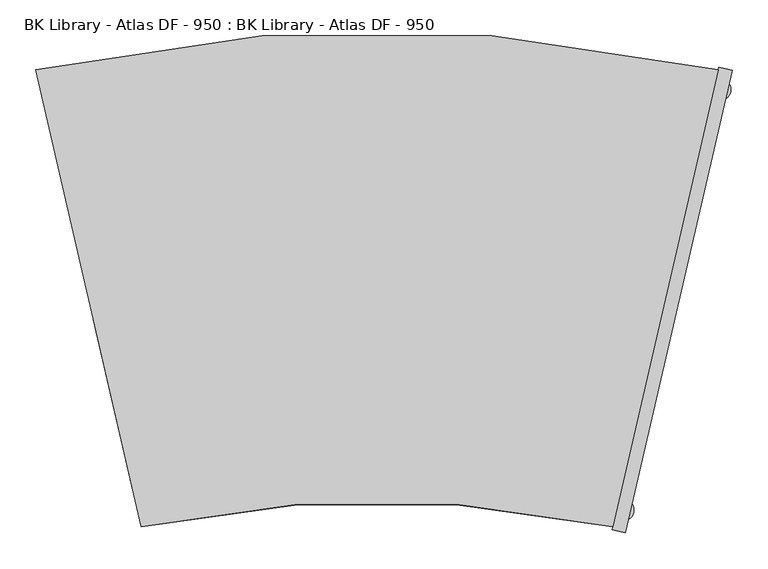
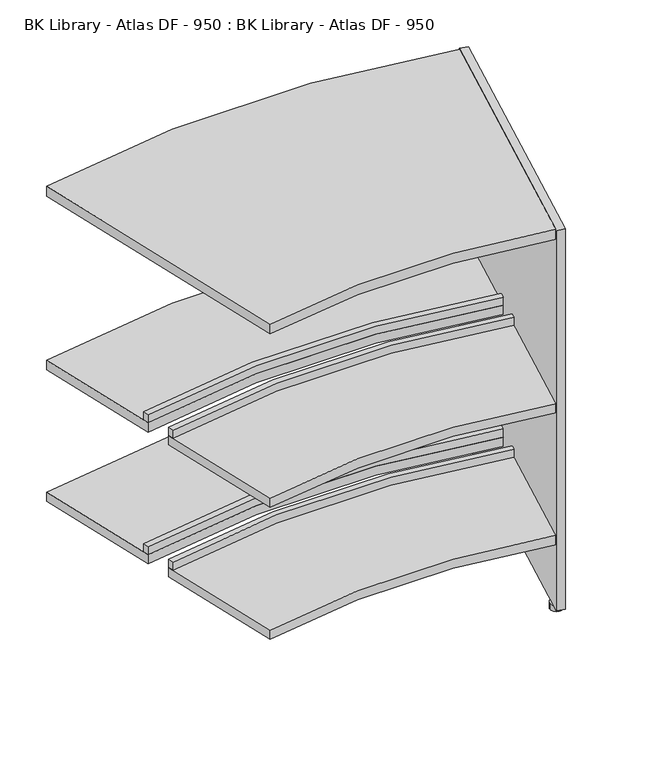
"""IFC4 building model written with IfcOpenShell, lengths in millimetres: furniture geometry, BK Library - Atlas DF - 950 : BK Library - Atlas DF - 950."""

from ifc_helpers import new_model, si_unit, point, frame, frame_2d, origin, origin_with_axes, place, context, project, spatial, polyline, circle_curve, trimmed, segment, composite_curve, outline, extrude, source, transform, mapped, element, save


def bk_library_atlas_df_950_bk_library_atlas_df_950_67e1581c(model_context):
    return source(origin(), model_context, "Body", "SweptSolid", [
        extrude(outline(composite_curve([segment(trimmed(circle_curve(frame_2d((0.0, -1777.8812307)), 2148.52767), [point((-474.1962162, 317.663829))], [point((474.1962162, 317.663829))], False, "CARTESIAN"), True, "CONTINUOUS"), segment(polyline([(474.1962162, 317.663829), (327.6944521, -317.663829)]), True, "CONTINUOUS"), segment(trimmed(circle_curve(frame_2d((0.0, -1840.4430404)), 1557.6392973), [point((327.6944521, -317.663829))], [point((-327.6944521, -317.663829))], True, "CARTESIAN"), True, "CONTINUOUS"), segment(polyline([(-327.6944521, -317.663829), (-474.1962162, 317.663829)]), True, "CONTINUOUS")], self_intersect=False)), frame((0.0, 0.0, 912.0), z_axis=(0.0, 0.0, 1.0), x_axis=(1.0, 0.0, 0.0)), (0.0, 0.0, 1.0), 24.0),
        extrude(outline(composite_curve([segment(trimmed(circle_curve(frame_2d((0.0, -1840.4430404)), 1557.6392973), [point((327.6944521, -317.663829))], [point((-327.6944521, -317.663829))], True, "CARTESIAN"), True, "CONTINUOUS"), segment(polyline([(-327.6944521, -317.663829), (-394.2058088, -29.2269986)]), True, "CONTINUOUS"), segment(trimmed(circle_curve(frame_2d((0.0, -1785.1487517)), 1799.627579), [point((-394.2058088, -29.2269986))], [point((394.2058088, -29.2269986))], False, "CARTESIAN"), True, "CONTINUOUS"), segment(polyline([(394.2058088, -29.2269986), (327.6944521, -317.663829)]), True, "CONTINUOUS")], self_intersect=False)), frame((0.0, 0.0, 171.6999998), z_axis=(0.0, 0.0, 1.0), x_axis=(1.0, 0.0, 0.0)), (0.0, 0.0, 1.0), 22.0),
        extrude(outline(composite_curve([segment(trimmed(circle_curve(frame_2d((0.0, -1777.8812307)), 2148.52767), [point((-474.1962162, 317.663829))], [point((474.1962162, 317.663829))], False, "CARTESIAN"), True, "CONTINUOUS"), segment(polyline([(474.1962162, 317.663829), (407.6853202, 29.2289965)]), True, "CONTINUOUS"), segment(trimmed(circle_curve(frame_2d((0.0, -1798.2835703)), 1872.4341116), [point((407.6853202, 29.2289965))], [point((-407.6853202, 29.2289965))], True, "CARTESIAN"), True, "CONTINUOUS"), segment(polyline([(-407.6853202, 29.2289965), (-474.1962162, 317.663829)]), True, "CONTINUOUS")], self_intersect=False)), frame((0.0, 0.0, 171.6999998), z_axis=(0.0, 0.0, 1.0), x_axis=(1.0, 0.0, 0.0)), (0.0, 0.0, 1.0), 22.0),
        extrude(outline(composite_curve([segment(trimmed(circle_curve(frame_2d((0.0, -1840.4430404)), 1557.6392973), [point((327.6944521, -317.663829))], [point((-327.6944521, -317.663829))], True, "CARTESIAN"), True, "CONTINUOUS"), segment(polyline([(-327.6944521, -317.663829), (-394.2058088, -29.2269986)]), True, "CONTINUOUS"), segment(trimmed(circle_curve(frame_2d((0.0, -1785.1487517)), 1799.627579), [point((-394.2058088, -29.2269986))], [point((394.2058088, -29.2269986))], False, "CARTESIAN"), True, "CONTINUOUS"), segment(polyline([(394.2058088, -29.2269986), (327.6944521, -317.663829)]), True, "CONTINUOUS")], self_intersect=False)), frame((0.0, 0.0, 491.6999998), z_axis=(0.0, 0.0, 1.0), x_axis=(1.0, 0.0, 0.0)), (0.0, 0.0, 1.0), 22.0),
        extrude(outline(composite_curve([segment(trimmed(circle_curve(frame_2d((0.0, -1777.8812307)), 2148.52767), [point((-474.1962162, 317.663829))], [point((474.1962162, 317.663829))], False, "CARTESIAN"), True, "CONTINUOUS"), segment(polyline([(474.1962162, 317.663829), (407.6853202, 29.2289965)]), True, "CONTINUOUS"), segment(trimmed(circle_curve(frame_2d((0.0, -1798.2835703)), 1872.4341116), [point((407.6853202, 29.2289965))], [point((-407.6853202, 29.2289965))], True, "CARTESIAN"), True, "CONTINUOUS"), segment(polyline([(-407.6853202, 29.2289965), (-474.1962162, 317.663829)]), True, "CONTINUOUS")], self_intersect=False)), frame((0.0, 0.0, 491.6999998), z_axis=(0.0, 0.0, 1.0), x_axis=(1.0, 0.0, 0.0)), (0.0, 0.0, 1.0), 22.0),
        extrude(outline(composite_curve([segment(trimmed(circle_curve(frame_2d((0.0, -1785.1487517)), 1799.627579), [point((-394.2058088, -29.2269986))], [point((394.2058088, -29.2269986))], False, "CARTESIAN"), True, "CONTINUOUS"), segment(polyline([(394.2058088, -29.2269986), (391.2848087, -41.8943694)]), True, "CONTINUOUS"), segment(trimmed(circle_curve(frame_2d((0.0, -1790.5831955)), 1791.9309172), [point((391.2848087, -41.8943694))], [point((-391.2848087, -41.8943694))], True, "CARTESIAN"), True, "CONTINUOUS"), segment(polyline([(-391.2848087, -41.8943694), (-394.2058088, -29.2269986)]), True, "CONTINUOUS")], self_intersect=False)), frame((0.0, 0.0, 193.6999998), z_axis=(0.0, 0.0, 1.0), x_axis=(1.0, 0.0, 0.0)), (0.0, 0.0, 1.0), 20.0),
        extrude(outline(composite_curve([segment(trimmed(circle_curve(frame_2d((0.0, -1776.6858327)), 1864.3585062), [point((-410.605951, 41.8947656))], [point((410.605951, 41.8947656))], False, "CARTESIAN"), True, "CONTINUOUS"), segment(polyline([(410.605951, 41.8947656), (407.6853202, 29.2289965)]), True, "CONTINUOUS"), segment(trimmed(circle_curve(frame_2d((0.0, -1798.2835703)), 1872.4341116), [point((407.6853202, 29.2289965))], [point((-407.6853202, 29.2289965))], True, "CARTESIAN"), True, "CONTINUOUS"), segment(polyline([(-407.6853202, 29.2289965), (-410.605951, 41.8947656)]), True, "CONTINUOUS")], self_intersect=False)), frame((0.0, 0.0, 193.6999998), z_axis=(0.0, 0.0, 1.0), x_axis=(1.0, 0.0, 0.0)), (0.0, 0.0, 1.0), 20.0),
        extrude(outline(composite_curve([segment(trimmed(circle_curve(frame_2d((0.0, -1785.1487517)), 1799.627579), [point((-394.2058088, -29.2269986))], [point((394.2058088, -29.2269986))], False, "CARTESIAN"), True, "CONTINUOUS"), segment(polyline([(394.2058088, -29.2269986), (391.2848087, -41.8943694)]), True, "CONTINUOUS"), segment(trimmed(circle_curve(frame_2d((0.0, -1790.5831955)), 1791.9309172), [point((391.2848087, -41.8943694))], [point((-391.2848087, -41.8943694))], True, "CARTESIAN"), True, "CONTINUOUS"), segment(polyline([(-391.2848087, -41.8943694), (-394.2058088, -29.2269986)]), True, "CONTINUOUS")], self_intersect=False)), frame((0.0, 0.0, 513.6999998), z_axis=(0.0, 0.0, 1.0), x_axis=(1.0, 0.0, 0.0)), (0.0, 0.0, 1.0), 20.0),
        extrude(outline(composite_curve([segment(trimmed(circle_curve(frame_2d((0.0, -1776.6858327)), 1864.3585062), [point((-410.605951, 41.8947656))], [point((410.605951, 41.8947656))], False, "CARTESIAN"), True, "CONTINUOUS"), segment(polyline([(410.605951, 41.8947656), (407.6853202, 29.2289965)]), True, "CONTINUOUS"), segment(trimmed(circle_curve(frame_2d((0.0, -1798.2835703)), 1872.4341116), [point((407.6853202, 29.2289965))], [point((-407.6853202, 29.2289965))], True, "CARTESIAN"), True, "CONTINUOUS"), segment(polyline([(-407.6853202, 29.2289965), (-410.605951, 41.8947656)]), True, "CONTINUOUS")], self_intersect=False)), frame((0.0, 0.0, 513.6999998), z_axis=(0.0, 0.0, 1.0), x_axis=(1.0, 0.0, 0.0)), (0.0, 0.0, 1.0), 20.0),
        extrude(outline(polyline([(475.095, 321.5615447), (493.6091495, 317.2923215), (345.3098178, -325.8307679), (326.7956683, -321.5615447), (475.095, 321.5615447)])), frame((0.0, 0.0, 13.6999998), z_axis=(0.0, 0.0, 1.0), x_axis=(1.0, 0.0, 0.0)), (0.0, 0.0, 1.0), 922.3000002),
        extrude(outline(composite_curve([segment(trimmed(circle_curve(frame_2d((477.608406, 290.1883722)), 14.4994573), [point((492.1078633, 290.1883722))], [point((463.1089486, 290.1883722))], False, "CARTESIAN"), True, "CONTINUOUS"), segment(trimmed(circle_curve(frame_2d((477.608406, 290.1883722)), 14.4994573), [point((463.1089486, 290.1883722))], [point((492.1078633, 290.1883722))], False, "CARTESIAN"), True, "CONTINUOUS")], self_intersect=False)), origin_with_axes(), (0.0, 0.0, 1.0), 13.6999998),
        extrude(outline(composite_curve([segment(trimmed(circle_curve(frame_2d((342.7923392, -294.4590973)), 14.4994573), [point((357.2917965, -294.4590973))], [point((328.2928818, -294.4590973))], False, "CARTESIAN"), True, "CONTINUOUS"), segment(trimmed(circle_curve(frame_2d((342.7923392, -294.4590973)), 14.4994573), [point((328.2928818, -294.4590973))], [point((357.2917965, -294.4590973))], False, "CARTESIAN"), True, "CONTINUOUS")], self_intersect=False)), origin_with_axes(), (0.0, 0.0, 1.0), 13.6999998),
    ])


if __name__ == "__main__":
    model = new_model("IFC4")
    model_context = context("Model", 3, world=origin())
    ifc_project = project(units=[si_unit("LENGTHUNIT", "METRE", prefix="MILLI")], contexts=[model_context])
    site = spatial("IfcSite", under=ifc_project)
    building = spatial("IfcBuilding", under=site)
    placement = place(None, origin())
    bk_library_atlas_df_950_bk_library_atlas_df_950_shape = bk_library_atlas_df_950_bk_library_atlas_df_950_67e1581c(model_context)
    element("IfcFurniture", 1, ObjectType="BK Library - Atlas DF - 950 : BK Library - Atlas DF - 950", at=placement, inside=building, context=model_context, shape_type="MappedRepresentation", body=[
        mapped(bk_library_atlas_df_950_bk_library_atlas_df_950_shape, transform((0.0, 0.0, 0.0), x_axis=(1.0, 0.0, 0.0), y_axis=(0.0, 1.0, 0.0), z_axis=(0.0, 0.0, 1.0))),
    ])
    save(model, "model.ifc")
